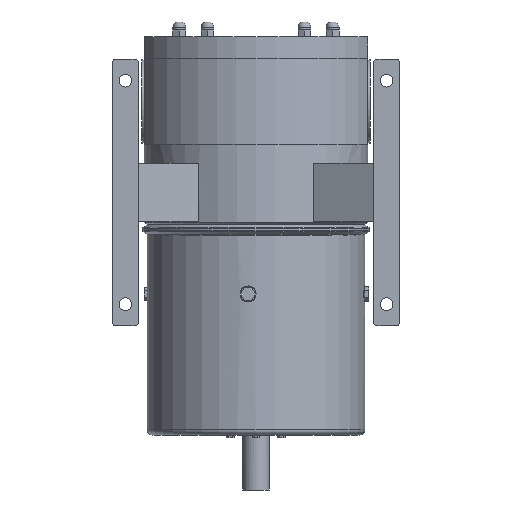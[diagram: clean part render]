
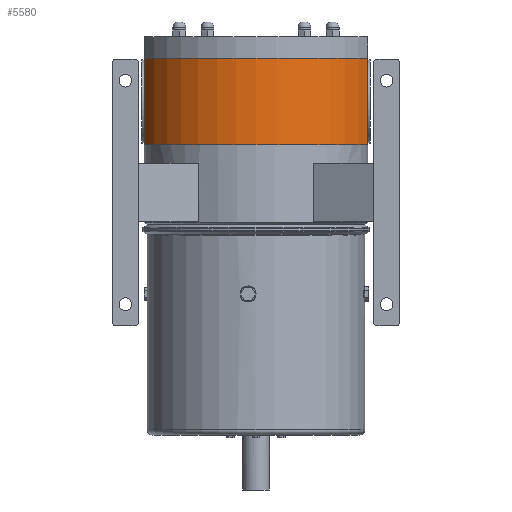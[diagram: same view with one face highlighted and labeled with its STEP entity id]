
A CAD part, front view. The second image highlights one B-rep face of the part: STEP entity #5580.
In plain terms, the highlighted cylindrical face has radius 231 mm (diameter 462 mm), a partial arc.
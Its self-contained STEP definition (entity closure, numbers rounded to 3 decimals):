
#138=CYLINDRICAL_SURFACE('',#6070,231.);
#401=FACE_OUTER_BOUND('',#736,.T.);
#736=EDGE_LOOP('',(#4540,#4541,#4542,#4543,#4544,#4545));
#1042=LINE('',#8535,#1612);
#1044=LINE('',#8540,#1614);
#1059=LINE('',#8645,#1629);
#1273=LINE('',#9467,#1843);
#1612=VECTOR('',#6654,152.28);
#1614=VECTOR('',#6660,10.);
#1629=VECTOR('',#6741,152.28);
#1843=VECTOR('',#7357,10.);
#2067=CIRCLE('',#5843,231.);
#2074=CIRCLE('',#5853,231.);
#2403=VERTEX_POINT('',#8532);
#2404=VERTEX_POINT('',#8534);
#2405=VERTEX_POINT('',#8538);
#2408=VERTEX_POINT('',#8549);
#2413=VERTEX_POINT('',#8585);
#2430=VERTEX_POINT('',#8644);
#2974=EDGE_CURVE('',#2404,#2403,#1042,.T.);
#2977=EDGE_CURVE('',#2405,#2403,#1044,.T.);
#2982=EDGE_CURVE('',#2408,#2404,#2067,.T.);
#2995=EDGE_CURVE('',#2405,#2413,#2074,.T.);
#3016=EDGE_CURVE('',#2430,#2408,#1059,.T.);
#3312=EDGE_CURVE('',#2413,#2430,#1273,.T.);
#4540=ORIENTED_EDGE('',*,*,#2995,.T.);
#4541=ORIENTED_EDGE('',*,*,#3312,.T.);
#4542=ORIENTED_EDGE('',*,*,#3016,.T.);
#4543=ORIENTED_EDGE('',*,*,#2982,.T.);
#4544=ORIENTED_EDGE('',*,*,#2974,.T.);
#4545=ORIENTED_EDGE('',*,*,#2977,.F.);
#5580=ADVANCED_FACE('',(#401),#138,.T.);
#5843=AXIS2_PLACEMENT_3D('',#8550,#6673,#6674);
#5853=AXIS2_PLACEMENT_3D('',#8587,#6699,#6700);
#6070=AXIS2_PLACEMENT_3D('',#9466,#7355,#7356);
#6654=DIRECTION('',(0.,0.,1.));
#6660=DIRECTION('',(0.,0.,-1.));
#6673=DIRECTION('center_axis',(0.,0.,1.));
#6674=DIRECTION('ref_axis',(-1.,0.,0.));
#6699=DIRECTION('center_axis',(0.,0.,-1.));
#6700=DIRECTION('ref_axis',(-0.909,-0.417,0.));
#6741=DIRECTION('',(0.,0.,-1.));
#7355=DIRECTION('center_axis',(0.,0.,-1.));
#7356=DIRECTION('ref_axis',(-0.909,-0.417,0.));
#7357=DIRECTION('',(0.,0.,-1.));
#8532=CARTESIAN_POINT('',(210.,-96.234,-50.));
#8534=CARTESIAN_POINT('',(210.,-96.234,-202.28));
#8535=CARTESIAN_POINT('',(210.,-96.234,-202.28));
#8538=CARTESIAN_POINT('',(210.,-96.234,-40.));
#8540=CARTESIAN_POINT('',(210.,-96.234,-40.));
#8549=CARTESIAN_POINT('',(-210.,-96.234,-202.28));
#8550=CARTESIAN_POINT('Origin',(0.,0.,-202.28));
#8585=CARTESIAN_POINT('',(-210.,-96.234,-40.));
#8587=CARTESIAN_POINT('Origin',(0.,0.,-40.));
#8644=CARTESIAN_POINT('',(-210.,-96.234,-50.));
#8645=CARTESIAN_POINT('',(-210.,-96.234,-50.));
#9466=CARTESIAN_POINT('Origin',(0.,0.,0.));
#9467=CARTESIAN_POINT('',(-210.,-96.234,-40.));
